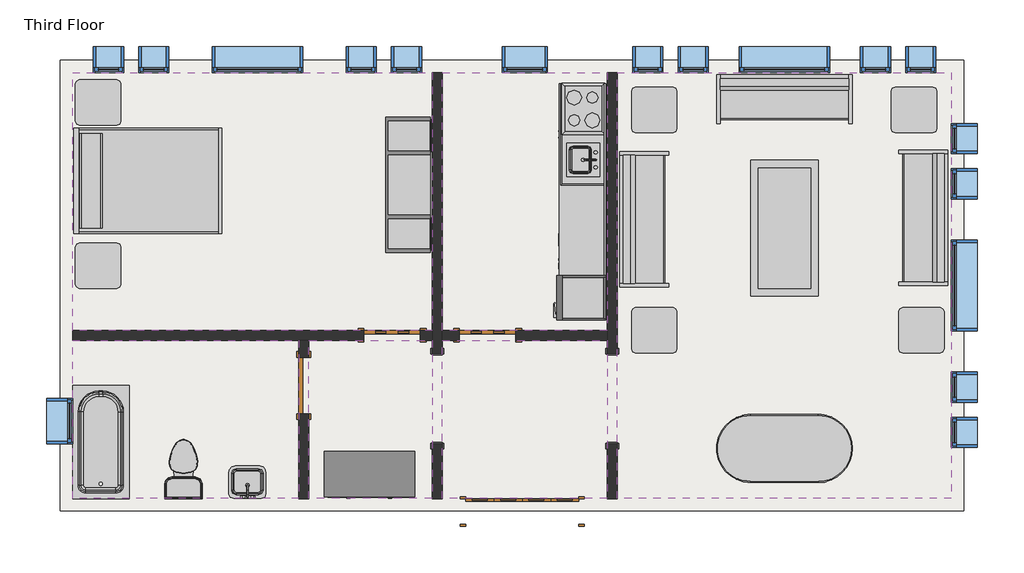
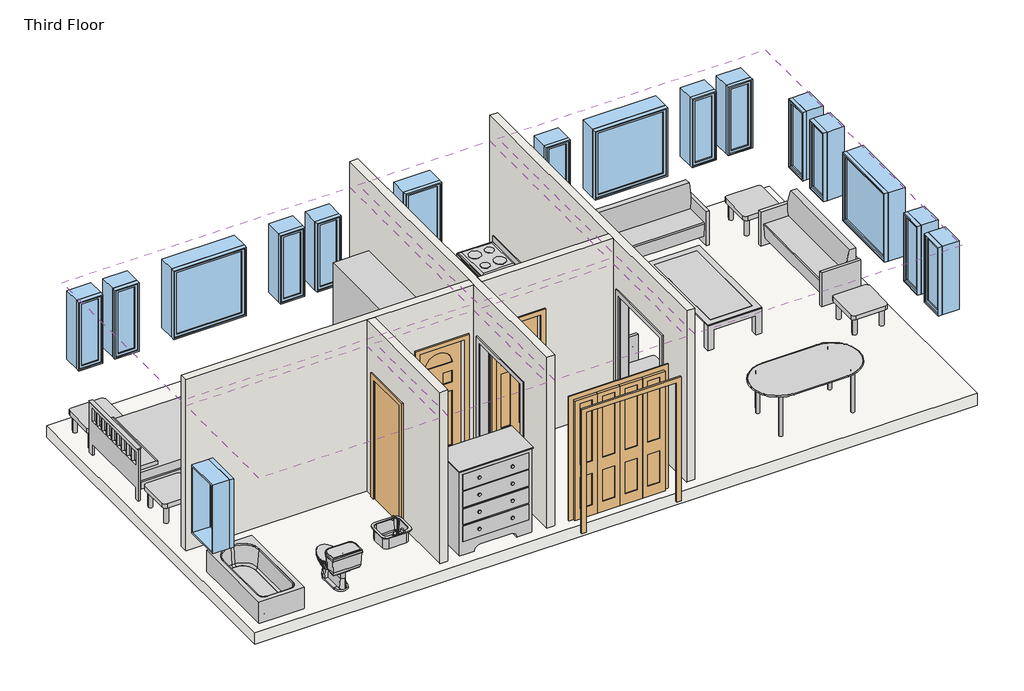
# One storey, incomplete: 17 windows, 15 furniture elements, 6 coverings, 6 proxies, 4 doors, 4 flow terminals, 4 walls, 1 slab.
"""IFC4 building model written with IfcOpenShell, lengths in millimetres."""

from ifc_helpers import new_model, si_unit, frame, origin, place, context, project, spatial, polyline, outline, extrude, faceted_brep, transform, mapped, element, save
from components import m_cook_top_4_unit2_0615_x_500mm_249f3515, m_dishwasher_610_x_610_x_875mm_54ecfc4c, m_kitchenette_medium_1372mm_e05c6bec, m_passage_opening_cased_1220_x_2134mm_87a8d9c2, m_refrigerator_600_x_660mm_a466bf94, m_bifold_4_panel_1525_x_2134mm_1ddae71f, m_single_decorative_2_0762_x_2134mm_0d0af7cb, m_single_decorative_2_0762_x_2134mm_2fe67c8e, m_single_flush_0762_x_2134mm_0d89e411, m_sink_kitchen_island_450_x_450mm_f969cf2d, m_sink_vanity_square_500_x_440mm_1e229b74, m_toilet_domestic_3d_m_toilet_domestic_3d_5cb52bd4, m_toilet_domestic_3d_m_toilet_domestic_3d_183bbd19, m_tub_rectangular_3d_m_tub_rectangular_3d_3a981ad5, m_bed_shaker_1422_x_1981mm_double_096e7f55, m_counter_top_w_sink_hole_600mm_depth_1fb56bb9, m_dresser_1220_x_1525_x_0610mm_18e1f140, m_entertainment_center_1830_x_1830_x_0610mm_f77a9b93, m_sofa_1830mm_f9e8a66b, m_table_coffee_0915_x_1830_x_0457mm_134cd960, m_table_dining_oval_0915_x_1830mm_a7cfbe21, m_table_end_cb6ea12e, m_fixed_0406_x_1220mm_57fee329, m_fixed_0406_x_1220mm_85c28f40, m_fixed_0610_x_1220mm_2c28ef1d, m_fixed_1220_x_1220mm_e08ff7af

model = new_model("IFC4")

# Units and contexts
model_context = context("Model", 3, world=origin())
ifc_project = project(units=[si_unit("LENGTHUNIT", "METRE", prefix="MILLI")], contexts=[model_context])

# Site, building, storey
site = spatial("IfcSite", under=ifc_project)
building = spatial("IfcBuilding", under=site)
storey = spatial("IfcBuildingStorey", under=building, Name="Third Floor", Elevation=6096.0)

# Proxies
placement = place(None, origin())
m_cook_top_4_unit2_0615_x_500mm_shape = m_cook_top_4_unit2_0615_x_500mm_249f3515(model_context)
element("IfcBuildingElementProxy", 1, Name="M_Cook Top-4 Unit2 : 0615 x 500mm", ObjectType="M_Cook Top-4 Unit2 : 0615 x 500mm", at=placement, inside=storey, context=model_context, shape_type="MappedRepresentation", body=[
    mapped(m_cook_top_4_unit2_0615_x_500mm_shape, transform((-8054.9916203, 1914.054661, 6096.0), x_axis=(0.0, -1.0, 0.0), y_axis=(1.0, 0.0, 0.0), z_axis=(0.0, 0.0, 1.0))),
])
m_dishwasher_610_x_610_x_875mm_shape = m_dishwasher_610_x_610_x_875mm_54ecfc4c(model_context)
element("IfcBuildingElementProxy", 2, Name="M_Dishwasher : 610 x 610 x 875mm", ObjectType="M_Dishwasher : 610 x 610 x 875mm", at=placement, inside=storey, context=model_context, shape_type="MappedRepresentation", body=[
    mapped(m_dishwasher_610_x_610_x_875mm_shape, transform((-8321.6411851, 353.5721295, 6096.0), x_axis=(0.0, -1.0, 0.0), y_axis=(1.0, 0.0, 0.0), z_axis=(0.0, 0.0, 1.0))),
])
m_kitchenette_medium_1372mm_shape = m_kitchenette_medium_1372mm_e05c6bec(model_context)
element("IfcBuildingElementProxy", 3, Name="M_Kitchenette - Medium : 1372mm", ObjectType="M_Kitchenette - Medium : 1372mm", at=placement, inside=storey, context=model_context, shape_type="MappedRepresentation", body=[
    mapped(m_kitchenette_medium_1372mm_shape, transform((-7749.9916203, 1589.7923659, 6096.0), x_axis=(0.0, -1.0, 0.0), y_axis=(1.0, 0.0, 0.0), z_axis=(0.0, 0.0, 1.0))),
])
m_passage_opening_cased_1220_x_2134mm_shape = m_passage_opening_cased_1220_x_2134mm_87a8d9c2(model_context)
element("IfcBuildingElementProxy", 4, Name="M_Passage Opening-Cased : 1220 x 2134mm", ObjectType="M_Passage Opening-Cased : 1220 x 2134mm", at=placement, inside=storey, context=model_context, shape_type="MappedRepresentation", body=[
    mapped(m_passage_opening_cased_1220_x_2134mm_shape, transform((-7665.3416203, -1982.6925047, 6096.0), x_axis=(0.0, 1.0, 0.0), y_axis=(-1.0, 0.0, 0.0), z_axis=(0.0, 0.0, 1.0))),
])
element("IfcBuildingElementProxy", 5, Name="M_Passage Opening-Cased : 1220 x 2134mm", ObjectType="M_Passage Opening-Cased : 1220 x 2134mm", at=placement, inside=storey, context=model_context, shape_type="MappedRepresentation", body=[
    mapped(m_passage_opening_cased_1220_x_2134mm_shape, transform((-10019.0916203, -1999.0698181, 6096.0), x_axis=(0.0, -1.0, 0.0), y_axis=(1.0, 0.0, 0.0), z_axis=(0.0, 0.0, 1.0))),
])
m_refrigerator_600_x_660mm_shape = m_refrigerator_600_x_660mm_a466bf94(model_context)
element("IfcBuildingElementProxy", 6, Name="M_Refrigerator : 600 x 660mm", ObjectType="M_Refrigerator : 600 x 660mm", at=placement, inside=storey, context=model_context, shape_type="MappedRepresentation", body=[
    mapped(m_refrigerator_600_x_660mm_shape, transform((-8046.2067105, -687.7464817, 6096.0), x_axis=(0.0, -1.0, 0.0), y_axis=(1.0, 0.0, 0.0), z_axis=(0.0, 0.0, 1.0))),
])

# Coverings
element("IfcCovering", 7, ObjectType="Plain", at=placement, inside=storey, context=model_context, shape_type="SweptSolid", body=[
    extrude(outline(polyline([(-14935.3416203, 2406.1188386), (-10086.8416203, 2406.1188386), (-10086.8416203, -1070.3811614), (-14935.3416203, -1070.3811614), (-14935.3416203, 2406.1188386)])), frame((0.0, 0.0, 8686.0), z_axis=(0.0, 0.0, 1.0), x_axis=(1.0, 0.0, 0.0)), (0.0, 0.0, 1.0), 57.0),
])
element("IfcCovering", 8, ObjectType="Plain", at=placement, inside=storey, context=model_context, shape_type="SweptSolid", body=[
    extrude(outline(polyline([(-9951.3416203, -1070.3811614), (-9951.3416203, 2406.1188386), (-7733.0916203, 2406.1188386), (-7733.0916203, -1070.3811614), (-9951.3416203, -1070.3811614)])), frame((0.0, 0.0, 8686.0), z_axis=(0.0, 0.0, 1.0), x_axis=(1.0, 0.0, 0.0)), (0.0, 0.0, 1.0), 57.0),
])
element("IfcCovering", 9, ObjectType="Plain", at=placement, inside=storey, context=model_context, shape_type="SweptSolid", body=[
    extrude(outline(polyline([(-7597.5916203, -3339.8811614), (-7597.5916203, 2406.1188386), (-3093.3416203, 2406.1188386), (-3093.3416203, -3339.8811614), (-7597.5916203, -3339.8811614)])), frame((0.0, 0.0, 8686.0), z_axis=(0.0, 0.0, 1.0), x_axis=(1.0, 0.0, 0.0)), (0.0, 0.0, 1.0), 57.0),
])
element("IfcCovering", 10, ObjectType="Plain", at=placement, inside=storey, context=model_context, shape_type="SweptSolid", body=[
    extrude(outline(polyline([(-7733.0916203, -3339.8811614), (-9951.3416203, -3339.8811614), (-9951.3416203, -1205.8811614), (-7733.0916203, -1205.8811614), (-7733.0916203, -3339.8811614)])), frame((0.0, 0.0, 8686.0), z_axis=(0.0, 0.0, 1.0), x_axis=(1.0, 0.0, 0.0)), (0.0, 0.0, 1.0), 57.0),
])
element("IfcCovering", 11, ObjectType="Plain", at=placement, inside=storey, context=model_context, shape_type="SweptSolid", body=[
    extrude(outline(polyline([(-11887.3416203, -1205.8811614), (-11887.3416203, -3339.8811614), (-14935.3416203, -3339.8811614), (-14935.3416203, -1205.8811614), (-11887.3416203, -1205.8811614)])), frame((0.0, 0.0, 8686.0), z_axis=(0.0, 0.0, 1.0), x_axis=(1.0, 0.0, 0.0)), (0.0, 0.0, 1.0), 57.0),
])
element("IfcCovering", 12, ObjectType="Plain", at=placement, inside=storey, context=model_context, shape_type="SweptSolid", body=[
    extrude(outline(polyline([(-10086.8416203, -3339.8811614), (-11751.8416203, -3339.8811614), (-11751.8416203, -1205.8811614), (-10086.8416203, -1205.8811614), (-10086.8416203, -3339.8811614)])), frame((0.0, 0.0, 8686.0), z_axis=(0.0, 0.0, 1.0), x_axis=(1.0, 0.0, 0.0)), (0.0, 0.0, 1.0), 57.0),
])

# Doors
m_bifold_4_panel_1525_x_2134mm_shape = m_bifold_4_panel_1525_x_2134mm_1ddae71f(model_context)
element("IfcDoor", 13, ObjectType="M_Bifold-4 Panel : 1525 x 2134mm", at=placement, inside=storey, context=model_context, shape_type="MappedRepresentation", body=[
    mapped(m_bifold_4_panel_1525_x_2134mm_shape, transform((-8876.0916203, -3514.8811614, 6096.0), x_axis=(1.0, 0.0, 0.0), y_axis=(0.0, 1.0, 0.0), z_axis=(0.0, 0.0, 1.0))),
])
m_single_decorative_2_0762_x_2134mm_shape = m_single_decorative_2_0762_x_2134mm_0d0af7cb(model_context)
element("IfcDoor", 14, ObjectType="M_Single-Decorative 2 : 0762 x 2134mm", at=placement, inside=storey, context=model_context, shape_type="MappedRepresentation", body=[
    mapped(m_single_decorative_2_0762_x_2134mm_shape, transform((-9342.3416203, -1138.1311614, 6096.0), x_axis=(-1.0, 0.0, 0.0), y_axis=(0.0, -1.0, 0.0), z_axis=(0.0, 0.0, 1.0))),
])
m_single_decorative_2_0762_x_2134mm_2_shape = m_single_decorative_2_0762_x_2134mm_2fe67c8e(model_context)
element("IfcDoor", 15, ObjectType="M_Single-Decorative 2 : 0762 x 2134mm", at=placement, inside=storey, context=model_context, shape_type="MappedRepresentation", body=[
    mapped(m_single_decorative_2_0762_x_2134mm_2_shape, transform((-10629.0916203, -1138.1311614, 6096.0), x_axis=(1.0, 0.0, 0.0), y_axis=(0.0, 1.0, 0.0), z_axis=(0.0, 0.0, 1.0))),
])
m_single_flush_0762_x_2134mm_shape = m_single_flush_0762_x_2134mm_0d89e411(model_context)
element("IfcDoor", 16, ObjectType="M_Single-Flush : 0762 x 2134mm", at=placement, inside=storey, context=model_context, shape_type="MappedRepresentation", body=[
    mapped(m_single_flush_0762_x_2134mm_shape, transform((-11819.5916203, -1815.8811614, 6096.0), x_axis=(0.0, 1.0, 0.0), y_axis=(-1.0, 0.0, 0.0), z_axis=(0.0, 0.0, 1.0))),
])

# Flow terminals
m_sink_kitchen_island_450_x_450mm_shape = m_sink_kitchen_island_450_x_450mm_f969cf2d(model_context)
element("IfcFlowTerminal", 17, ObjectType="M_Sink Kitchen-Island : 450 x 450mm", at=placement, inside=storey, context=model_context, shape_type="MappedRepresentation", body=[
    mapped(m_sink_kitchen_island_450_x_450mm_shape, transform((-8057.3370214, 1243.7439015, 6096.0), x_axis=(0.0, -1.0, 0.0), y_axis=(1.0, 0.0, 0.0), z_axis=(0.0, 0.0, 1.0))),
])
m_sink_vanity_square_500_x_440mm_shape = m_sink_vanity_square_500_x_440mm_1e229b74(model_context)
element("IfcFlowTerminal", 18, ObjectType="M_Sink Vanity-Square : 500 x 440mm", at=placement, inside=storey, context=model_context, shape_type="MappedRepresentation", body=[
    mapped(m_sink_vanity_square_500_x_440mm_shape, transform((-12563.5523798, -3158.1107603, 6096.0), x_axis=(-1.0, 0.0, 0.0), y_axis=(0.0, -1.0, 0.0), z_axis=(0.0, 0.0, 1.0))),
])
m_toilet_domestic_3d_m_toilet_domestic_3d_shape = m_toilet_domestic_3d_m_toilet_domestic_3d_5cb52bd4(model_context)
m_toilet_domestic_3d_m_toilet_domestic_3d_2_shape = m_toilet_domestic_3d_m_toilet_domestic_3d_183bbd19(model_context)
element("IfcFlowTerminal", 19, ObjectType="M_Toilet-Domestic-3D : M_Toilet-Domestic-3D", at=placement, inside=storey, context=model_context, shape_type="MappedRepresentation", body=[
    mapped(m_toilet_domestic_3d_m_toilet_domestic_3d_shape, transform((-13440.7376477, -2845.185134, 6096.0), x_axis=(-1.0000000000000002, 0.0, 0.0), y_axis=(0.0, -1.0000000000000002, 0.0), z_axis=(0.0, 0.0, 1.0))),
    mapped(m_toilet_domestic_3d_m_toilet_domestic_3d_2_shape, transform((-13440.7376477, -2845.185134, 6096.0), x_axis=(-1.0000000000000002, 0.0, 0.0), y_axis=(0.0, -1.0000000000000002, 0.0), z_axis=(0.0, 0.0, 1.0))),
])
m_tub_rectangular_3d_m_tub_rectangular_3d_shape = m_tub_rectangular_3d_m_tub_rectangular_3d_3a981ad5(model_context)
element("IfcFlowTerminal", 20, ObjectType="M_Tub-Rectangular-3D : M_Tub-Rectangular-3D", at=placement, inside=storey, context=model_context, shape_type="MappedRepresentation", body=[
    mapped(m_tub_rectangular_3d_m_tub_rectangular_3d_shape, transform((-15110.3416203, -2229.2781927, 6096.0), x_axis=(0.0, 1.0, 0.0), y_axis=(-1.0, 0.0, 0.0), z_axis=(0.0, 0.0, 1.0))),
])

# Furniture
m_bed_shaker_1422_x_1981mm_double_shape = m_bed_shaker_1422_x_1981mm_double_096e7f55(model_context)
element("IfcFurniture", 21, ObjectType="M_Bed-Shaker : 1422 x 1981mm - Double", at=placement, inside=storey, context=model_context, shape_type="MappedRepresentation", body=[
    mapped(m_bed_shaker_1422_x_1981mm_double_shape, transform((-14905.3416203, 963.9688386, 6096.0), x_axis=(0.0, 1.0000000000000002, 0.0), y_axis=(-1.0000000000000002, 0.0, 0.0), z_axis=(0.0, 0.0, 1.0))),
])
m_counter_top_w_sink_hole_600mm_depth_shape = m_counter_top_w_sink_hole_600mm_depth_1fb56bb9(model_context)
element("IfcFurniture", 22, ObjectType="M_Counter Top w Sink Hole : 600mm Depth", at=placement, inside=storey, context=model_context, shape_type="MappedRepresentation", body=[
    mapped(m_counter_top_w_sink_hole_600mm_depth_shape, transform((-7749.9916203, 1056.5923659, 6096.0), x_axis=(0.0, -1.0, 0.0), y_axis=(1.0, 0.0, 0.0), z_axis=(0.0, 0.0, 1.0))),
])
m_dresser_1220_x_1525_x_0610mm_shape = m_dresser_1220_x_1525_x_0610mm_18e1f140(model_context)
element("IfcFurniture", 23, ObjectType="M_Dresser : 1220 x 1525 x 0610mm", at=placement, inside=storey, context=model_context, shape_type="MappedRepresentation", body=[
    mapped(m_dresser_1220_x_1525_x_0610mm_shape, transform((-10667.6483605, -2647.7182073, 6096.0), x_axis=(1.0, 0.0, 0.0), y_axis=(0.0, 1.0, 0.0), z_axis=(0.0, 0.0, 1.0))),
])
m_entertainment_center_1830_x_1830_x_0610mm_shape = m_entertainment_center_1830_x_1830_x_0610mm_f77a9b93(model_context)
element("IfcFurniture", 24, ObjectType="M_Entertainment center : 1830 x 1830 x 0610mm", at=placement, inside=storey, context=model_context, shape_type="MappedRepresentation", body=[
    mapped(m_entertainment_center_1830_x_1830_x_0610mm_shape, transform((-10818.2416203, 891.1188386, 6096.0), x_axis=(0.0, 1.0, 0.0), y_axis=(-1.0, 0.0, 0.0), z_axis=(0.0, 0.0, 1.0))),
])
m_sofa_1830mm_shape = m_sofa_1830mm_f9e8a66b(model_context)
element("IfcFurniture", 25, ObjectType="M_Sofa : 1830mm", at=placement, inside=storey, context=model_context, shape_type="MappedRepresentation", body=[
    mapped(m_sofa_1830mm_shape, transform((-5413.7121121, 1899.9647403, 6096.0), x_axis=(1.0, 0.0, 0.0), y_axis=(0.0, 1.0, 0.0), z_axis=(0.0, 0.0, 1.0))),
])
element("IfcFurniture", 26, ObjectType="M_Sofa : 1830mm", at=placement, inside=storey, context=model_context, shape_type="MappedRepresentation", body=[
    mapped(m_sofa_1830mm_shape, transform((-3617.1736471, 517.2688343, 6096.0), x_axis=(0.0, -1.0, 0.0), y_axis=(1.0, 0.0, 0.0), z_axis=(0.0, 0.0, 1.0))),
])
element("IfcFurniture", 27, ObjectType="M_Sofa : 1830mm", at=placement, inside=storey, context=model_context, shape_type="MappedRepresentation", body=[
    mapped(m_sofa_1830mm_shape, transform((-7088.437522, 355.7483468, 6096.0), x_axis=(0.0, 1.0, 0.0), y_axis=(-1.0, 0.0, 0.0), z_axis=(0.0, 0.0, 1.0))),
])
m_table_coffee_0915_x_1830_x_0457mm_shape = m_table_coffee_0915_x_1830_x_0457mm_134cd960(model_context)
element("IfcFurniture", 28, ObjectType="M_Table-Coffee : 0915 x 1830 x 0457mm", at=placement, inside=storey, context=model_context, shape_type="MappedRepresentation", body=[
    mapped(m_table_coffee_0915_x_1830_x_0457mm_shape, transform((-5248.1305425, 287.8530719, 6096.0), x_axis=(0.0, 1.0, 0.0), y_axis=(-1.0, 0.0, 0.0), z_axis=(0.0, 0.0, 1.0))),
])
m_table_dining_oval_0915_x_1830mm_shape = m_table_dining_oval_0915_x_1830mm_a7cfbe21(model_context)
element("IfcFurniture", 29, ObjectType="M_Table-Dining Oval : 0915 x 1830mm", at=placement, inside=storey, context=model_context, shape_type="MappedRepresentation", body=[
    mapped(m_table_dining_oval_0915_x_1830mm_shape, transform((-4941.5219482, -2305.2828007, 6096.0), x_axis=(1.0, 0.0, 0.0), y_axis=(0.0, 1.0, 0.0), z_axis=(0.0, 0.0, 1.0))),
])
m_table_end_shape = m_table_end_cb6ea12e(model_context)
element("IfcFurniture", 30, ObjectType="M_Table-End : 0610 x 0160mm altered height", at=placement, inside=storey, context=model_context, shape_type="MappedRepresentation", body=[
    mapped(m_table_end_shape, transform((-7407.0752506, 1748.7188386, 6096.0), x_axis=(1.0, 0.0, 0.0), y_axis=(0.0, 1.0, 0.0), z_axis=(0.0, 0.0, 1.0))),
])
element("IfcFurniture", 31, ObjectType="M_Table-End : 0610 x 0160mm altered height", at=placement, inside=storey, context=model_context, shape_type="MappedRepresentation", body=[
    mapped(m_table_end_shape, transform((-3907.0752506, 1748.7188386, 6096.0), x_axis=(1.0, 0.0, 0.0), y_axis=(0.0, 1.0, 0.0), z_axis=(0.0, 0.0, 1.0))),
])
element("IfcFurniture", 32, ObjectType="M_Table-End : 0610 x 0160mm altered height", at=placement, inside=storey, context=model_context, shape_type="MappedRepresentation", body=[
    mapped(m_table_end_shape, transform((-3807.0752506, -1222.7811614, 6096.0), x_axis=(1.0, 0.0, 0.0), y_axis=(0.0, 1.0, 0.0), z_axis=(0.0, 0.0, 1.0))),
])
element("IfcFurniture", 33, ObjectType="M_Table-End : 0610 x 0160mm altered height", at=placement, inside=storey, context=model_context, shape_type="MappedRepresentation", body=[
    mapped(m_table_end_shape, transform((-7407.0752506, -1222.7811614, 6096.0), x_axis=(1.0, 0.0, 0.0), y_axis=(0.0, 1.0, 0.0), z_axis=(0.0, 0.0, 1.0))),
])
element("IfcFurniture", 34, ObjectType="M_Table-End : 0610 x 0160mm altered height", at=placement, inside=storey, context=model_context, shape_type="MappedRepresentation", body=[
    mapped(m_table_end_shape, transform((-14899.0752506, -351.2811614, 6096.0), x_axis=(1.0, 0.0, 0.0), y_axis=(0.0, 1.0, 0.0), z_axis=(0.0, 0.0, 1.0))),
])
element("IfcFurniture", 35, ObjectType="M_Table-End : 0610 x 0160mm altered height", at=placement, inside=storey, context=model_context, shape_type="MappedRepresentation", body=[
    mapped(m_table_end_shape, transform((-14899.0752506, 1848.7188386, 6096.0), x_axis=(1.0, 0.0, 0.0), y_axis=(0.0, 1.0, 0.0), z_axis=(0.0, 0.0, 1.0))),
])

# Slab
element("IfcSlab", 36, ObjectType="160mm Concrete With 50mm Metal Deck", at=placement, inside=storey, context=model_context, shape_type="SweptSolid", body=[
    extrude(outline(polyline([(-2928.3416203, 2571.1188386), (-2928.3416203, -3504.8811614), (-15100.3416203, -3504.8811614), (-15100.3416203, 2571.1188386), (-2928.3416203, 2571.1188386)])), frame((0.0, 0.0, 5886.0), z_axis=(0.0, 0.0, 1.0), x_axis=(1.0, 0.0, 0.0)), (0.0, 0.0, 1.0), 210.0),
])

# Walls
element("IfcWall", 37, ObjectType="Interior - 135mm Partition (2-hr)", at=placement, inside=storey, context=model_context, shape_type="Brep", body=[
    faceted_brep([(-7733.0916203, 2406.1188386, 6096.0), (-7733.0916203, -1070.3811614, 6096.0), (-7733.0916203, -1205.8811614, 6096.0), (-7733.0916203, -1380.8811614, 6096.0), (-7733.0916203, -1380.8811614, 8230.0), (-7733.0916203, -2600.8811614, 8230.0), (-7733.0916203, -2600.8811614, 6096.0), (-7733.0916203, -3339.8811614, 6096.0), (-7733.0916203, -3339.8811614, 9144.0), (-7733.0916203, -1205.8811614, 9144.0), (-7733.0916203, -1070.3811614, 9144.0), (-7733.0916203, 2406.1188386, 9144.0), (-7597.5916203, -1380.8811614, 8230.0), (-7597.5916203, -1380.8811614, 6096.0), (-7597.5916203, 2406.1188386, 6096.0), (-7597.5916203, 2406.1188386, 9144.0), (-7597.5916203, -3339.8811614, 9144.0), (-7597.5916203, -3339.8811614, 6096.0), (-7597.5916203, -2600.8811614, 6096.0), (-7597.5916203, -2600.8811614, 8230.0)], [[[0, 1, 2, 3, 4, 5, 6, 7, 8, 9, 10, 11]], [[12, 13, 14, 15, 16, 17, 18, 19]], [[18, 17, 7, 6]], [[14, 13, 3, 2, 1, 0]], [[11, 10, 9, 8, 16, 15]], [[6, 5, 19, 18]], [[4, 3, 13, 12]], [[5, 4, 12, 19]], [[0, 11, 15, 14]], [[8, 7, 17, 16]]]),
])
element("IfcWall", 38, ObjectType="Interior - 135mm Partition (2-hr)", at=placement, inside=storey, context=model_context, shape_type="Brep", body=[
    faceted_brep([(-10086.8416203, -2600.8811614, 8230.0), (-10086.8416203, -2600.8811614, 6096.0), (-10086.8416203, -3339.8811614, 6096.0), (-10086.8416203, -3339.8811614, 9144.0), (-10086.8416203, -1205.8811614, 9144.0), (-10086.8416203, -1070.3811614, 9144.0), (-10086.8416203, 2406.1188386, 9144.0), (-10086.8416203, 2406.1188386, 6096.0), (-10086.8416203, -1070.3811614, 6096.0), (-10086.8416203, -1205.8811614, 6096.0), (-10086.8416203, -1380.8811614, 6096.0), (-10086.8416203, -1380.8811614, 8230.0), (-9951.3416203, -3339.8811614, 6096.0), (-9951.3416203, -2600.8811614, 6096.0), (-9951.3416203, -2600.8811614, 8230.0), (-9951.3416203, -1380.8811614, 8230.0), (-9951.3416203, -1380.8811614, 6096.0), (-9951.3416203, -1205.8811614, 6096.0), (-9951.3416203, -1070.3811614, 6096.0), (-9951.3416203, 2406.1188386, 6096.0), (-9951.3416203, 2406.1188386, 9144.0), (-9951.3416203, -1070.3811614, 9144.0), (-9951.3416203, -1205.8811614, 9144.0), (-9951.3416203, -3339.8811614, 9144.0)], [[[0, 1, 2, 3, 4, 5, 6, 7, 8, 9, 10, 11]], [[12, 13, 14, 15, 16, 17, 18, 19, 20, 21, 22, 23]], [[2, 1, 13, 12]], [[10, 9, 8, 7, 19, 18, 17, 16]], [[6, 5, 4, 3, 23, 22, 21, 20]], [[16, 15, 11, 10]], [[14, 13, 1, 0]], [[15, 14, 0, 11]], [[7, 6, 20, 19]], [[3, 2, 12, 23]]]),
])
element("IfcWall", 39, ObjectType="Interior - 135mm Partition (2-hr)", at=placement, inside=storey, context=model_context, shape_type="Brep", body=[
    faceted_brep([(-7733.0916203, -1205.8811614, 6096.0), (-7733.0916203, -1205.8811614, 9144.0), (-9951.3416203, -1205.8811614, 9144.0), (-9951.3416203, -1205.8811614, 6096.0), (-9723.3416203, -1205.8811614, 6096.0), (-9723.3416203, -1205.8811614, 8230.0), (-8961.3416203, -1205.8811614, 8230.0), (-8961.3416203, -1205.8811614, 6096.0), (-7733.0916203, -1070.3811614, 9144.0), (-7733.0916203, -1070.3811614, 6096.0), (-8961.3416203, -1070.3811614, 6096.0), (-8961.3416203, -1070.3811614, 8230.0), (-9723.3416203, -1070.3811614, 8230.0), (-9723.3416203, -1070.3811614, 6096.0), (-9951.3416203, -1070.3811614, 6096.0), (-9951.3416203, -1070.3811614, 9144.0)], [[[0, 1, 2, 3, 4, 5, 6, 7]], [[8, 9, 10, 11, 12, 13, 14, 15]], [[9, 0, 7, 10]], [[13, 4, 3, 14]], [[1, 8, 15, 2]], [[1, 0, 9, 8]], [[3, 2, 15, 14]], [[5, 4, 13, 12]], [[6, 5, 12, 11]], [[7, 6, 11, 10]]]),
    faceted_brep([(-10248.0916203, -1205.8811614, 8230.0), (-10248.0916203, -1205.8811614, 6096.0), (-10086.8416203, -1205.8811614, 6096.0), (-10086.8416203, -1205.8811614, 9144.0), (-11751.8416203, -1205.8811614, 9144.0), (-11887.3416203, -1205.8811614, 9144.0), (-14935.3416203, -1205.8811614, 9144.0), (-14935.3416203, -1205.8811614, 6096.0), (-11887.3416203, -1205.8811614, 6096.0), (-11751.8416203, -1205.8811614, 6096.0), (-11010.0916203, -1205.8811614, 6096.0), (-11010.0916203, -1205.8811614, 8230.0), (-10248.0916203, -1070.3811614, 6096.0), (-10248.0916203, -1070.3811614, 8230.0), (-11010.0916203, -1070.3811614, 8230.0), (-11010.0916203, -1070.3811614, 6096.0), (-14935.3416203, -1070.3811614, 6096.0), (-14935.3416203, -1070.3811614, 9144.0), (-10086.8416203, -1070.3811614, 9144.0), (-10086.8416203, -1070.3811614, 6096.0)], [[[0, 1, 2, 3, 4, 5, 6, 7, 8, 9, 10, 11]], [[12, 13, 14, 15, 16, 17, 18, 19]], [[1, 12, 19, 2]], [[15, 10, 9, 8, 7, 16]], [[17, 6, 5, 4, 3, 18]], [[3, 2, 19, 18]], [[13, 12, 1, 0]], [[14, 13, 0, 11]], [[15, 14, 11, 10]], [[7, 6, 17, 16]]]),
])
element("IfcWall", 40, ObjectType="Interior - 135mm Partition (2-hr)", at=placement, inside=storey, context=model_context, shape_type="SweptSolid", body=[
    extrude(outline(polyline([(-1205.8811614, 6096.0), (-1434.8811614, 6096.0), (-1434.8811614, 8230.0), (-2196.8811614, 8230.0), (-2196.8811614, 6096.0), (-3339.8811614, 6096.0), (-3339.8811614, 9144.0), (-1205.8811614, 9144.0), (-1205.8811614, 6096.0)])), frame((-11887.3416203, 0.0, 0.0), z_axis=(1.0, 0.0, 0.0), x_axis=(0.0, 1.0, 0.0)), (0.0, 0.0, 1.0), 135.5),
])

# Windows
m_fixed_0406_x_1220mm_shape = m_fixed_0406_x_1220mm_57fee329(model_context)
element("IfcWindow", 41, ObjectType="M_Fixed : 0406 x 1220mm", at=placement, inside=storey, context=model_context, shape_type="MappedRepresentation", body=[
    mapped(m_fixed_0406_x_1220mm_shape, transform((-14450.3416203, 2594.1188386, 6096.0), x_axis=(-1.0, 0.0, 0.0), y_axis=(0.0, -1.0, 0.0), z_axis=(0.0, 0.0, 1.0))),
])
element("IfcWindow", 42, ObjectType="M_Fixed : 0406 x 1220mm", at=placement, inside=storey, context=model_context, shape_type="MappedRepresentation", body=[
    mapped(m_fixed_0406_x_1220mm_shape, transform((-13840.3416203, 2594.1188386, 6096.0), x_axis=(-1.0, 0.0, 0.0), y_axis=(0.0, -1.0, 0.0), z_axis=(0.0, 0.0, 1.0))),
])
element("IfcWindow", 43, ObjectType="M_Fixed : 0406 x 1220mm", at=placement, inside=storey, context=model_context, shape_type="MappedRepresentation", body=[
    mapped(m_fixed_0406_x_1220mm_shape, transform((-7183.3416203, 2594.1188386, 6096.0), x_axis=(-1.0, 0.0, 0.0), y_axis=(0.0, -1.0, 0.0), z_axis=(0.0, 0.0, 1.0))),
])
element("IfcWindow", 44, ObjectType="M_Fixed : 0406 x 1220mm", at=placement, inside=storey, context=model_context, shape_type="MappedRepresentation", body=[
    mapped(m_fixed_0406_x_1220mm_shape, transform((-6573.3416203, 2594.1188386, 6096.0), x_axis=(-1.0, 0.0, 0.0), y_axis=(0.0, -1.0, 0.0), z_axis=(0.0, 0.0, 1.0))),
])
element("IfcWindow", 45, ObjectType="M_Fixed : 0406 x 1220mm", at=placement, inside=storey, context=model_context, shape_type="MappedRepresentation", body=[
    mapped(m_fixed_0406_x_1220mm_shape, transform((-2905.3416203, 1514.1188386, 6096.0), x_axis=(0.0, 1.0, 0.0), y_axis=(-1.0, 0.0, 0.0), z_axis=(0.0, 0.0, 1.0))),
])
element("IfcWindow", 46, ObjectType="M_Fixed : 0406 x 1220mm", at=placement, inside=storey, context=model_context, shape_type="MappedRepresentation", body=[
    mapped(m_fixed_0406_x_1220mm_shape, transform((-2905.3416203, 904.1188386, 6096.0), x_axis=(0.0, 1.0, 0.0), y_axis=(-1.0, 0.0, 0.0), z_axis=(0.0, 0.0, 1.0))),
])
m_fixed_0406_x_1220mm_2_shape = m_fixed_0406_x_1220mm_85c28f40(model_context)
element("IfcWindow", 47, ObjectType="M_Fixed : 0406 x 1220mm", at=placement, inside=storey, context=model_context, shape_type="MappedRepresentation", body=[
    mapped(m_fixed_0406_x_1220mm_2_shape, transform((-10436.3416203, 2594.1188386, 6096.0), x_axis=(1.0, 0.0, 0.0), y_axis=(0.0, 1.0, 0.0), z_axis=(0.0, 0.0, 1.0))),
])
element("IfcWindow", 48, ObjectType="M_Fixed : 0406 x 1220mm", at=placement, inside=storey, context=model_context, shape_type="MappedRepresentation", body=[
    mapped(m_fixed_0406_x_1220mm_2_shape, transform((-11046.3416203, 2594.1188386, 6096.0), x_axis=(1.0, 0.0, 0.0), y_axis=(0.0, 1.0, 0.0), z_axis=(0.0, 0.0, 1.0))),
])
element("IfcWindow", 49, ObjectType="M_Fixed : 0406 x 1220mm", at=placement, inside=storey, context=model_context, shape_type="MappedRepresentation", body=[
    mapped(m_fixed_0406_x_1220mm_2_shape, transform((-3507.5916203, 2594.1188386, 6096.0), x_axis=(1.0, 0.0, 0.0), y_axis=(0.0, 1.0, 0.0), z_axis=(0.0, 0.0, 1.0))),
])
element("IfcWindow", 50, ObjectType="M_Fixed : 0406 x 1220mm", at=placement, inside=storey, context=model_context, shape_type="MappedRepresentation", body=[
    mapped(m_fixed_0406_x_1220mm_2_shape, transform((-4117.5916203, 2594.1188386, 6096.0), x_axis=(1.0, 0.0, 0.0), y_axis=(0.0, 1.0, 0.0), z_axis=(0.0, 0.0, 1.0))),
])
element("IfcWindow", 51, ObjectType="M_Fixed : 0406 x 1220mm", at=placement, inside=storey, context=model_context, shape_type="MappedRepresentation", body=[
    mapped(m_fixed_0406_x_1220mm_2_shape, transform((-2905.3416203, -2447.8811614, 6096.0), x_axis=(0.0, -1.0, 0.0), y_axis=(1.0, 0.0, 0.0), z_axis=(0.0, 0.0, 1.0))),
])
element("IfcWindow", 52, ObjectType="M_Fixed : 0406 x 1220mm", at=placement, inside=storey, context=model_context, shape_type="MappedRepresentation", body=[
    mapped(m_fixed_0406_x_1220mm_2_shape, transform((-2905.3416203, -1837.8811614, 6096.0), x_axis=(0.0, -1.0, 0.0), y_axis=(1.0, 0.0, 0.0), z_axis=(0.0, 0.0, 1.0))),
])
m_fixed_0610_x_1220mm_shape = m_fixed_0610_x_1220mm_2c28ef1d(model_context)
element("IfcWindow", 53, ObjectType="M_Fixed : 0610 x 1220mm", at=placement, inside=storey, context=model_context, shape_type="MappedRepresentation", body=[
    mapped(m_fixed_0610_x_1220mm_shape, transform((-8842.1916203, 2594.1188386, 6096.0), x_axis=(-1.0, 0.0, 0.0), y_axis=(0.0, -1.0, 0.0), z_axis=(0.0, 0.0, 1.0))),
])
element("IfcWindow", 54, ObjectType="M_Fixed : 0610 x 1220mm", at=placement, inside=storey, context=model_context, shape_type="MappedRepresentation", body=[
    mapped(m_fixed_0610_x_1220mm_shape, transform((-15123.3416203, -2294.8811614, 6096.0), x_axis=(0.0, -1.0, 0.0), y_axis=(1.0, 0.0, 0.0), z_axis=(0.0, 0.0, 1.0))),
])
m_fixed_1220_x_1220mm_shape = m_fixed_1220_x_1220mm_e08ff7af(model_context)
element("IfcWindow", 55, ObjectType="M_Fixed : 1220 x 1220mm", at=placement, inside=storey, context=model_context, shape_type="MappedRepresentation", body=[
    mapped(m_fixed_1220_x_1220mm_shape, transform((-12443.3416203, 2594.1188386, 6096.0), x_axis=(-1.0, 0.0, 0.0), y_axis=(0.0, -1.0, 0.0), z_axis=(0.0, 0.0, 1.0))),
])
element("IfcWindow", 56, ObjectType="M_Fixed : 1220 x 1220mm", at=placement, inside=storey, context=model_context, shape_type="MappedRepresentation", body=[
    mapped(m_fixed_1220_x_1220mm_shape, transform((-5345.4666203, 2594.1188386, 6096.0), x_axis=(-1.0, 0.0, 0.0), y_axis=(0.0, -1.0, 0.0), z_axis=(0.0, 0.0, 1.0))),
])
element("IfcWindow", 57, ObjectType="M_Fixed : 1220 x 1220mm", at=placement, inside=storey, context=model_context, shape_type="MappedRepresentation", body=[
    mapped(m_fixed_1220_x_1220mm_shape, transform((-2905.3416203, -466.8811614, 6096.0), x_axis=(0.0, 1.0, 0.0), y_axis=(-1.0, 0.0, 0.0), z_axis=(0.0, 0.0, 1.0))),
])

save(model, "model.ifc")
